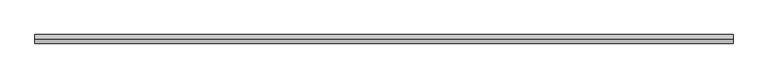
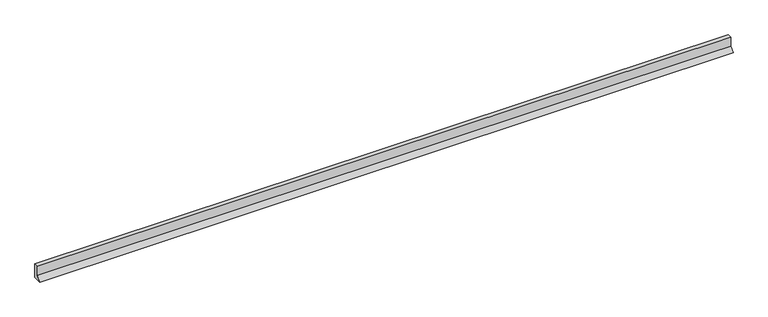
"""IFC4 building model written with IfcOpenShell, lengths in millimetres: plate geometry, ATELIERS 3S_EPURE CDB 200_HORIZONTAL : AZURO."""

from ifc_helpers import new_model, si_unit, frame, origin, place, context, project, spatial, polyline, outline, extrude, source, transform, mapped, element, save


def plate_d9d45059(model_context):
    return source(origin(), model_context, "Body", "SweptSolid", [
        extrude(outline(polyline([(-30.0201339, 31.7071152), (-30.0201339, 100.0), (0.0, 100.0), (0.0, 0.0), (-61.727249, 0.0), (-30.0201339, 31.7071152)])), frame((-2500.0, 0.0, 0.0), z_axis=(1.0, 0.0, 0.0), x_axis=(0.0, 1.0, 0.0)), (0.0, 0.0, 1.0), 5000.0),
    ])


if __name__ == "__main__":
    model = new_model("IFC4")
    model_context = context("Model", 3, world=origin())
    ifc_project = project(units=[si_unit("LENGTHUNIT", "METRE", prefix="MILLI")], contexts=[model_context])
    site = spatial("IfcSite", under=ifc_project)
    building = spatial("IfcBuilding", under=site)
    placement = place(None, origin())
    plate_shape = plate_d9d45059(model_context)
    element("IfcPlate", 1, ObjectType="ATELIERS 3S_EPURE CDB 200_HORIZONTAL : AZURO", at=placement, inside=building, context=model_context, shape_type="MappedRepresentation", body=[
        mapped(plate_shape, transform((0.0, 0.0, 0.0), x_axis=(1.0, 0.0, 0.0), y_axis=(0.0, 1.0, 0.0), z_axis=(0.0, 0.0, 1.0))),
    ])
    save(model, "model.ifc")
